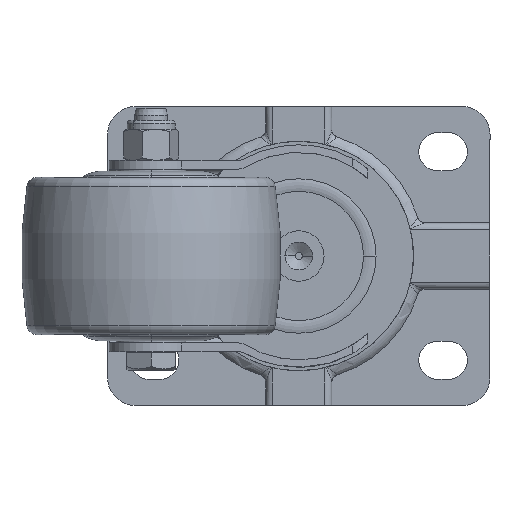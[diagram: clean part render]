
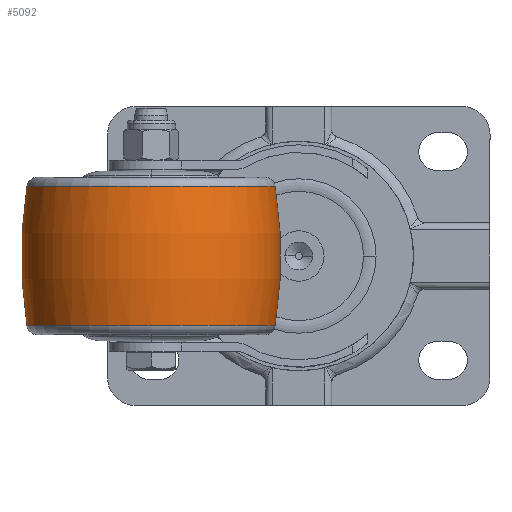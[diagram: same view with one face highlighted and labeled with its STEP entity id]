
A CAD part, front view. The second image highlights one B-rep face of the part: STEP entity #5092.
In plain terms, the highlighted toroidal (fillet/blend) face has major radius 91.4 mm and minor radius 128.7 mm.
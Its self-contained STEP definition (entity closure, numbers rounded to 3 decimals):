
#16 = AXIS2_PLACEMENT_3D ( 'NONE', #9045, #4590, #4676 ) ;
#222 = DIRECTION ( 'NONE',  ( 0., -1., 0. ) ) ;
#837 = DIRECTION ( 'NONE',  ( 1., 0., 0. ) ) ;
#1108 = EDGE_CURVE ( 'NONE', #8501, #5282, #9183, .T. ) ;
#1331 = DIRECTION ( 'NONE',  ( 0., 0., 1. ) ) ;
#1354 = DIRECTION ( 'NONE',  ( 0., 1., 0. ) ) ;
#1425 = DIRECTION ( 'NONE',  ( -1., 0., 0. ) ) ;
#1452 = CARTESIAN_POINT ( 'NONE',  ( 48.9, -68.959, 0. ) ) ;
#1961 = AXIS2_PLACEMENT_3D ( 'NONE', #1452, #1354, #8537 ) ;
#2044 = TOROIDAL_SURFACE ( 'NONE', #4786, -91.4, 128.7 ) ;
#2559 = ORIENTED_EDGE ( 'NONE', *, *, #5918, .T. ) ;
#2586 = CARTESIAN_POINT ( 'NONE',  ( -78.226, -68.959, 20.068 ) ) ;
#2604 = CIRCLE ( 'NONE', #16, 35.726 ) ;
#2842 = CARTESIAN_POINT ( 'NONE',  ( -78.226, -68.959, -20.068 ) ) ;
#3024 = CARTESIAN_POINT ( 'NONE',  ( -42.5, -68.959, -20.068 ) ) ;
#3693 = DIRECTION ( 'NONE',  ( 0., 0., 1. ) ) ;
#4341 = CARTESIAN_POINT ( 'NONE',  ( -42.5, -68.959, 0. ) ) ;
#4590 = DIRECTION ( 'NONE',  ( 0., 0., 1. ) ) ;
#4676 = DIRECTION ( 'NONE',  ( -1., 0., 0. ) ) ;
#4786 = AXIS2_PLACEMENT_3D ( 'NONE', #4341, #1331, #1425 ) ;
#4823 = AXIS2_PLACEMENT_3D ( 'NONE', #8130, #222, #837 ) ;
#5092 = ADVANCED_FACE ( 'NONE', ( #5754 ), #2044, .T. ) ;
#5095 = CIRCLE ( 'NONE', #8229, 35.726 ) ;
#5257 = CARTESIAN_POINT ( 'NONE',  ( -6.774, -68.959, -20.068 ) ) ;
#5282 = VERTEX_POINT ( 'NONE', #9088 ) ;
#5304 = CIRCLE ( 'NONE', #1961, 128.7 ) ;
#5754 = FACE_OUTER_BOUND ( 'NONE', #8550, .T. ) ;
#5789 = VERTEX_POINT ( 'NONE', #2842 ) ;
#5918 = EDGE_CURVE ( 'NONE', #5789, #8501, #5095, .T. ) ;
#6571 = DIRECTION ( 'NONE',  ( -1., 0., 0. ) ) ;
#7105 = ORIENTED_EDGE ( 'NONE', *, *, #8369, .F. ) ;
#7524 = VERTEX_POINT ( 'NONE', #2586 ) ;
#7538 = EDGE_CURVE ( 'NONE', #7524, #5282, #2604, .T. ) ;
#8039 = ORIENTED_EDGE ( 'NONE', *, *, #7538, .F. ) ;
#8130 = CARTESIAN_POINT ( 'NONE',  ( -133.9, -68.959, 0. ) ) ;
#8229 = AXIS2_PLACEMENT_3D ( 'NONE', #3024, #3693, #6571 ) ;
#8369 = EDGE_CURVE ( 'NONE', #5789, #7524, #5304, .T. ) ;
#8501 = VERTEX_POINT ( 'NONE', #5257 ) ;
#8537 = DIRECTION ( 'NONE',  ( -1., 0., 0. ) ) ;
#8550 = EDGE_LOOP ( 'NONE', ( #2559, #9062, #8039, #7105 ) ) ;
#9045 = CARTESIAN_POINT ( 'NONE',  ( -42.5, -68.959, 20.068 ) ) ;
#9062 = ORIENTED_EDGE ( 'NONE', *, *, #1108, .T. ) ;
#9088 = CARTESIAN_POINT ( 'NONE',  ( -6.774, -68.959, 20.068 ) ) ;
#9183 = CIRCLE ( 'NONE', #4823, 128.7 ) ;
